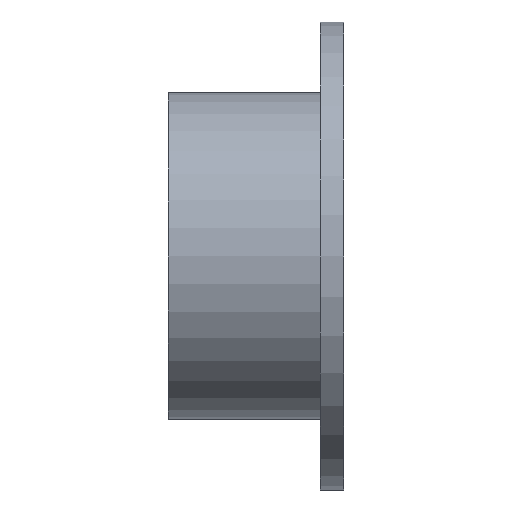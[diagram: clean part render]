
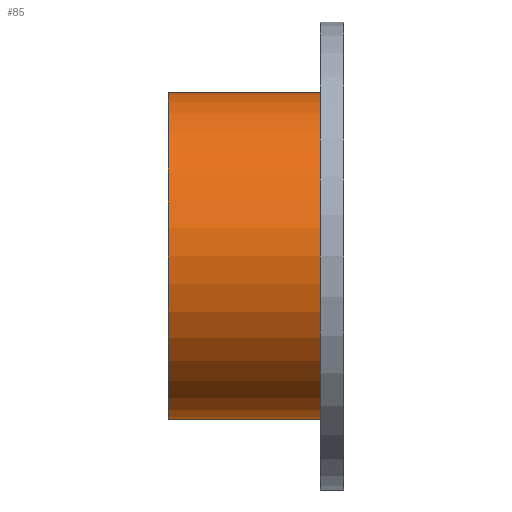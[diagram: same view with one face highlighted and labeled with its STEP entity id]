
A CAD part, left-side view. The second image highlights one B-rep face of the part: STEP entity #85.
In plain terms, the highlighted cylindrical face has radius 14 mm (diameter 28 mm), a partial arc.
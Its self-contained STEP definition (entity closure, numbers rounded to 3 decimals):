
#85 = ADVANCED_FACE( '', ( #116 ), #117, .T. );
#116 = FACE_OUTER_BOUND( '', #162, .T. );
#117 = CYLINDRICAL_SURFACE( '', #163, 14. );
#162 = EDGE_LOOP( '', ( #258, #259, #260, #261 ) );
#163 = AXIS2_PLACEMENT_3D( '', #262, #263, #264 );
#258 = ORIENTED_EDGE( '', *, *, #372, .T. );
#259 = ORIENTED_EDGE( '', *, *, #373, .T. );
#260 = ORIENTED_EDGE( '', *, *, #374, .T. );
#261 = ORIENTED_EDGE( '', *, *, #369, .F. );
#262 = CARTESIAN_POINT( '', ( 24., -2., 0. ) );
#263 = DIRECTION( '', ( 0., -1., 0. ) );
#264 = DIRECTION( '', ( 0., 0., -1. ) );
#369 = EDGE_CURVE( '', #433, #435, #436, .T. );
#372 = EDGE_CURVE( '', #433, #440, #441, .T. );
#373 = EDGE_CURVE( '', #440, #442, #443, .T. );
#374 = EDGE_CURVE( '', #442, #435, #444, .T. );
#433 = VERTEX_POINT( '', #525 );
#435 = VERTEX_POINT( '', #528 );
#436 = LINE( '', #529, #530 );
#440 = VERTEX_POINT( '', #536 );
#441 = CIRCLE( '', #537, 14. );
#442 = VERTEX_POINT( '', #538 );
#443 = LINE( '', #539, #540 );
#444 = CIRCLE( '', #541, 14. );
#525 = CARTESIAN_POINT( '', ( 24., 0., -14. ) );
#528 = CARTESIAN_POINT( '', ( 24., 13., -14. ) );
#529 = CARTESIAN_POINT( '', ( 24., -2., -14. ) );
#530 = VECTOR( '', #629, 1. );
#536 = CARTESIAN_POINT( '', ( 24., 0., 14. ) );
#537 = AXIS2_PLACEMENT_3D( '', #632, #633, #634 );
#538 = CARTESIAN_POINT( '', ( 24., 13., 14. ) );
#539 = CARTESIAN_POINT( '', ( 24., -2., 14. ) );
#540 = VECTOR( '', #635, 1. );
#541 = AXIS2_PLACEMENT_3D( '', #636, #637, #638 );
#629 = DIRECTION( '', ( 0., 1., 0. ) );
#632 = CARTESIAN_POINT( '', ( 24., 0., 0. ) );
#633 = DIRECTION( '', ( 0., 1., 0. ) );
#634 = DIRECTION( '', ( 0., 0., -1. ) );
#635 = DIRECTION( '', ( 0., 1., 0. ) );
#636 = CARTESIAN_POINT( '', ( 24., 13., 0. ) );
#637 = DIRECTION( '', ( 0., -1., 0. ) );
#638 = DIRECTION( '', ( 0., 0., -1. ) );
